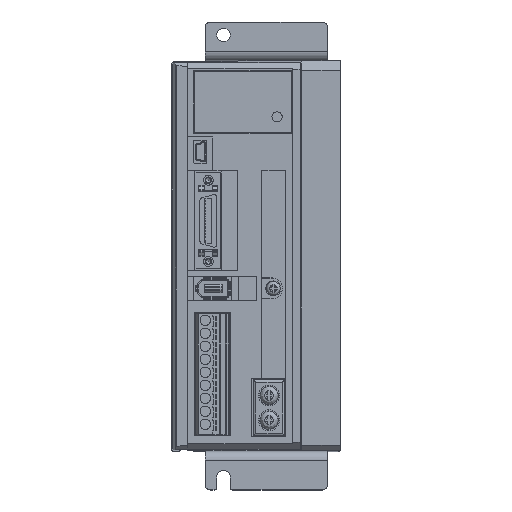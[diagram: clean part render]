
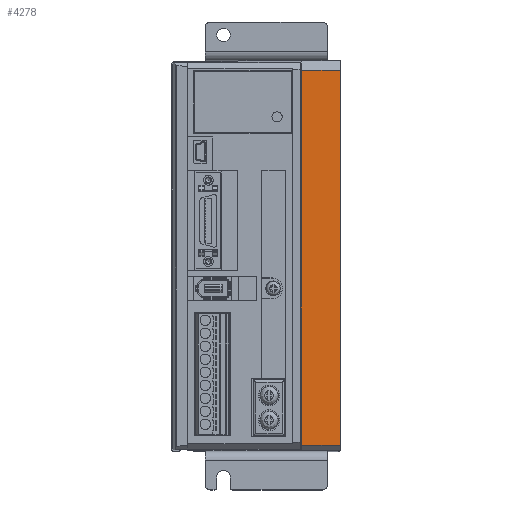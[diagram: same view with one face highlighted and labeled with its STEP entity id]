
A CAD part, top view. The second image highlights one B-rep face of the part: STEP entity #4278.
In plain terms, the highlighted planar face has unit normal (0, 0, 1).
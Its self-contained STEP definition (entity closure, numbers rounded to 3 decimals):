
#4278 = ADVANCED_FACE( '', ( #9893 ), #9894, .F. );
#9893 = FACE_OUTER_BOUND( '', #17099, .T. );
#9894 = PLANE( '', #17100 );
#17099 = EDGE_LOOP( '', ( #30079, #30080, #30081, #30082 ) );
#17100 = AXIS2_PLACEMENT_3D( '', #30083, #30084, #30085 );
#30079 = ORIENTED_EDGE( '', *, *, #43235, .F. );
#30080 = ORIENTED_EDGE( '', *, *, #47379, .F. );
#30081 = ORIENTED_EDGE( '', *, *, #46394, .F. );
#30082 = ORIENTED_EDGE( '', *, *, #47380, .T. );
#30083 = CARTESIAN_POINT( '', ( 0., 150., -0.27 ) );
#30084 = DIRECTION( '', ( 0., 0., -1. ) );
#30085 = DIRECTION( '', ( -1., 0., 0. ) );
#43235 = EDGE_CURVE( '', #52176, #52178, #52179, .T. );
#46394 = EDGE_CURVE( '', #57450, #57451, #57452, .T. );
#47379 = EDGE_CURVE( '', #57451, #52176, #58916, .T. );
#47380 = EDGE_CURVE( '', #57450, #52178, #58917, .T. );
#52176 = VERTEX_POINT( '', #65058 );
#52178 = VERTEX_POINT( '', #65061 );
#52179 = LINE( '', #65062, #65063 );
#57450 = VERTEX_POINT( '', #72942 );
#57451 = VERTEX_POINT( '', #72943 );
#57452 = LINE( '', #72944, #72945 );
#58916 = LINE( '', #75089, #75090 );
#58917 = LINE( '', #75091, #75092 );
#65058 = CARTESIAN_POINT( '', ( 15., 2.15, -0.27 ) );
#65061 = CARTESIAN_POINT( '', ( 0., 2.15, -0.27 ) );
#65062 = CARTESIAN_POINT( '', ( 0., 2.15, -0.27 ) );
#65063 = VECTOR( '', #82183, 1000. );
#72942 = CARTESIAN_POINT( '', ( 0., 146.34, -0.27 ) );
#72943 = CARTESIAN_POINT( '', ( 15., 146.34, -0.27 ) );
#72944 = CARTESIAN_POINT( '', ( 0., 146.34, -0.27 ) );
#72945 = VECTOR( '', #85774, 1000. );
#75089 = CARTESIAN_POINT( '', ( 15., 150., -0.27 ) );
#75090 = VECTOR( '', #86858, 1000. );
#75091 = CARTESIAN_POINT( '', ( 0., 150., -0.27 ) );
#75092 = VECTOR( '', #86859, 1000. );
#82183 = DIRECTION( '', ( -1., 0., 0. ) );
#85774 = DIRECTION( '', ( 1., 0., 0. ) );
#86858 = DIRECTION( '', ( 0., -1., 0. ) );
#86859 = DIRECTION( '', ( 0., -1., 0. ) );
